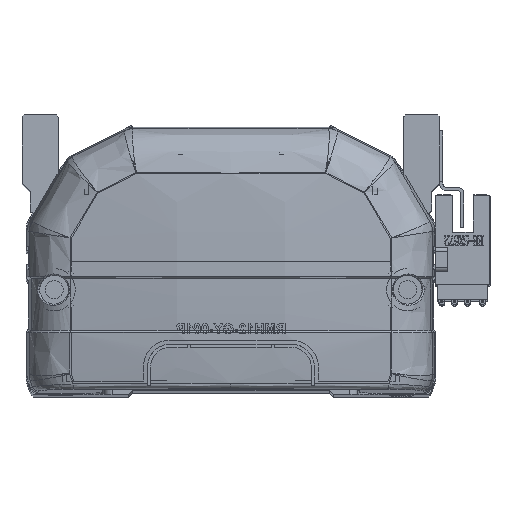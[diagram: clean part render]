
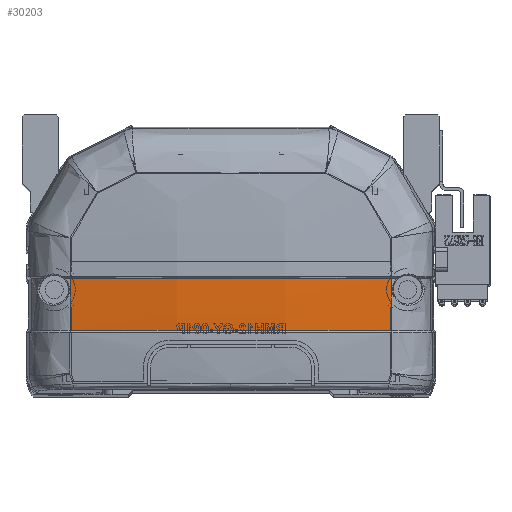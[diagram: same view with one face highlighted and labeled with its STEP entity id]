
A CAD part, top view. The second image highlights one B-rep face of the part: STEP entity #30203.
In plain terms, the highlighted free-form (B-spline) face has degree [3, 3] with [4, 4] control points.
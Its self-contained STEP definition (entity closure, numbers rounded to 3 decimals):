
#357 = CARTESIAN_POINT ( 'NONE',  ( -39.963, 28.706, -6.372 ) ) ;
#393 = CARTESIAN_POINT ( 'NONE',  ( 39.973, 20.12, -6.142 ) ) ;
#628 = CARTESIAN_POINT ( 'NONE',  ( -26.721, 15.83, -7.624 ) ) ;
#812 = CARTESIAN_POINT ( 'NONE',  ( 39.985, 15.83, -5.879 ) ) ;
#3257 = CARTESIAN_POINT ( 'NONE',  ( 39.963, 28.706, -6.372 ) ) ;
#4650 = CARTESIAN_POINT ( 'NONE',  ( 39.985, 15.83, -5.879 ) ) ;
#4686 = CARTESIAN_POINT ( 'NONE',  ( -23.389, 15.83, -7.947 ) ) ;
#4892 = VERTEX_POINT ( 'NONE', #38803 ) ;
#5068 = CARTESIAN_POINT ( 'NONE',  ( -33.365, 15.83, -6.848 ) ) ;
#6182 = CARTESIAN_POINT ( 'NONE',  ( -39.973, 20.118, -6.142 ) ) ;
#8062 = ORIENTED_EDGE ( 'NONE', *, *, #19229, .F. ) ;
#9068 = CARTESIAN_POINT ( 'NONE',  ( 39.963, 28.706, -6.372 ) ) ;
#11325 = CARTESIAN_POINT ( 'NONE',  ( -13.598, 15.499, -10.032 ) ) ;
#11887 = CARTESIAN_POINT ( 'NONE',  ( 13.598, 28.769, -10.535 ) ) ;
#12349 = FACE_OUTER_BOUND ( 'NONE', #13372, .T. ) ;
#12877 = B_SPLINE_CURVE_WITH_KNOTS ( 'NONE', 3,
 ( #812, #13973, #54068, #49575, #18390, #4686, #628, #5068, #23048, #26940 ),
 .UNSPECIFIED., .F., .F.,
 ( 4, 2, 2, 2, 4 ),
 ( 0., 0.04, 0.06, 0.07, 0.08 ),
 .UNSPECIFIED. ) ;
#13003 = CARTESIAN_POINT ( 'NONE',  ( -26.748, 28.706, -8.432 ) ) ;
#13372 = EDGE_LOOP ( 'NONE', ( #49576, #8062, #50224, #37399 ) ) ;
#13973 = CARTESIAN_POINT ( 'NONE',  ( 26.761, 15.83, -7.945 ) ) ;
#16360 = CARTESIAN_POINT ( 'NONE',  ( 13.598, 15.499, -10.032 ) ) ;
#17434 = CARTESIAN_POINT ( 'NONE',  ( -13.373, 28.707, -9.468 ) ) ;
#18268 = CARTESIAN_POINT ( 'NONE',  ( 39.985, 15.83, -5.879 ) ) ;
#18390 = CARTESIAN_POINT ( 'NONE',  ( -13.384, 15.83, -8.724 ) ) ;
#19229 = EDGE_CURVE ( 'NONE', #44811, #25940, #56150, .T. ) ;
#20237 = CARTESIAN_POINT ( 'NONE',  ( -40.461, 28.832, -6.296 ) ) ;
#20425 = CARTESIAN_POINT ( 'NONE',  ( 40.461, 28.832, -6.296 ) ) ;
#20635 = CARTESIAN_POINT ( 'NONE',  ( 13.598, 24.342, -10.47 ) ) ;
#20811 = CARTESIAN_POINT ( 'NONE',  ( 40.461, 20.111, -6.066 ) ) ;
#20864 =( BOUNDED_SURFACE ( )  B_SPLINE_SURFACE ( 3, 3, ( 
 ( #25269, #20811, #29542, #20425 ),
 ( #16360, #37894, #20635, #11887 ),
 ( #11325, #56258, #33601, #55887 ),
 ( #38468, #38269, #42295, #20237 ) ),
 .UNSPECIFIED., .F., .F., .F. ) 
 B_SPLINE_SURFACE_WITH_KNOTS ( ( 4, 4 ),
 ( 4, 4 ),
 ( 0., 1. ),
 ( 0., 1. ),
 .UNSPECIFIED. ) 
 GEOMETRIC_REPRESENTATION_ITEM ( )  RATIONAL_B_SPLINE_SURFACE ( (
 ( 1., 1., 1., 1.),
 ( 0.992, 0.992, 0.992, 0.992),
 ( 0.992, 0.992, 0.992, 0.992),
 ( 1., 1., 1., 1.) ) ) 
 REPRESENTATION_ITEM ( '' )  SURFACE ( )  );
#21529 = CARTESIAN_POINT ( 'NONE',  ( 26.749, 28.706, -8.432 ) ) ;
#22834 = EDGE_CURVE ( 'NONE', #51154, #25940, #36945, .T. ) ;
#23048 = CARTESIAN_POINT ( 'NONE',  ( -36.679, 15.83, -6.395 ) ) ;
#25269 = CARTESIAN_POINT ( 'NONE',  ( 40.461, 15.757, -5.8 ) ) ;
#25940 = VERTEX_POINT ( 'NONE', #3257 ) ;
#26940 = CARTESIAN_POINT ( 'NONE',  ( -39.985, 15.83, -5.879 ) ) ;
#27713 = CARTESIAN_POINT ( 'NONE',  ( -39.966, 24.412, -6.306 ) ) ;
#28793 = EDGE_CURVE ( 'NONE', #51154, #4892, #12877, .T. ) ;
#29542 = CARTESIAN_POINT ( 'NONE',  ( 40.461, 24.47, -6.231 ) ) ;
#30203 = ADVANCED_FACE ( 'NONE', ( #12349 ), #20864, .F. ) ;
#33601 = CARTESIAN_POINT ( 'NONE',  ( -13.598, 24.342, -10.47 ) ) ;
#35607 = CARTESIAN_POINT ( 'NONE',  ( 39.966, 24.413, -6.306 ) ) ;
#36945 = B_SPLINE_CURVE_WITH_KNOTS ( 'NONE', 3,
 ( #4650, #393, #35607, #9068 ),
 .UNSPECIFIED., .F., .F.,
 ( 4, 4 ),
 ( 0., 1. ),
 .UNSPECIFIED. ) ;
#37399 = ORIENTED_EDGE ( 'NONE', *, *, #28793, .F. ) ;
#37894 = CARTESIAN_POINT ( 'NONE',  ( 13.598, 19.918, -10.302 ) ) ;
#38269 = CARTESIAN_POINT ( 'NONE',  ( -40.461, 20.111, -6.066 ) ) ;
#38468 = CARTESIAN_POINT ( 'NONE',  ( -40.461, 15.757, -5.8 ) ) ;
#38803 = CARTESIAN_POINT ( 'NONE',  ( -39.985, 15.83, -5.879 ) ) ;
#42134 = B_SPLINE_CURVE_WITH_KNOTS ( 'NONE', 3,
 ( #49768, #27713, #6182, #49958 ),
 .UNSPECIFIED., .F., .F.,
 ( 4, 4 ),
 ( 0., 1. ),
 .UNSPECIFIED. ) ;
#42295 = CARTESIAN_POINT ( 'NONE',  ( -40.461, 24.47, -6.231 ) ) ;
#43393 = CARTESIAN_POINT ( 'NONE',  ( -39.963, 28.706, -6.372 ) ) ;
#43582 = CARTESIAN_POINT ( 'NONE',  ( 13.375, 28.707, -9.468 ) ) ;
#43767 = CARTESIAN_POINT ( 'NONE',  ( 39.963, 28.706, -6.372 ) ) ;
#44811 = VERTEX_POINT ( 'NONE', #357 ) ;
#46078 = EDGE_CURVE ( 'NONE', #44811, #4892, #42134, .T. ) ;
#49575 = CARTESIAN_POINT ( 'NONE',  ( -6.692, 15.83, -8.984 ) ) ;
#49576 = ORIENTED_EDGE ( 'NONE', *, *, #22834, .T. ) ;
#49768 = CARTESIAN_POINT ( 'NONE',  ( -39.963, 28.706, -6.372 ) ) ;
#49958 = CARTESIAN_POINT ( 'NONE',  ( -39.985, 15.83, -5.879 ) ) ;
#50224 = ORIENTED_EDGE ( 'NONE', *, *, #46078, .T. ) ;
#51154 = VERTEX_POINT ( 'NONE', #18268 ) ;
#54068 = CARTESIAN_POINT ( 'NONE',  ( 13.38, 15.83, -8.984 ) ) ;
#55887 = CARTESIAN_POINT ( 'NONE',  ( -13.598, 28.769, -10.535 ) ) ;
#56150 = B_SPLINE_CURVE_WITH_KNOTS ( 'NONE', 3,
 ( #43393, #13003, #17434, #43582, #21529, #43767 ),
 .UNSPECIFIED., .F., .F.,
 ( 4, 2, 4 ),
 ( 0., 0.5, 1. ),
 .UNSPECIFIED. ) ;
#56258 = CARTESIAN_POINT ( 'NONE',  ( -13.598, 19.918, -10.302 ) ) ;
